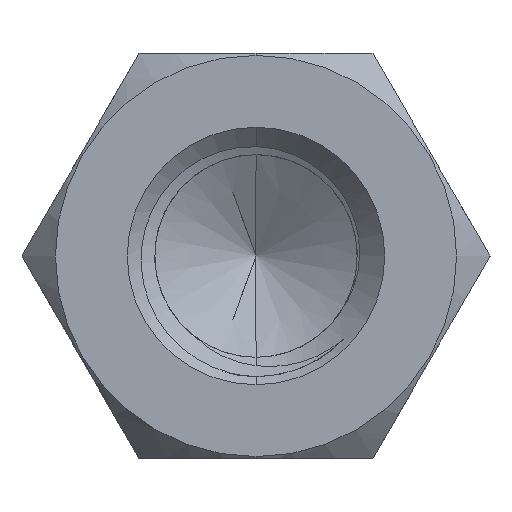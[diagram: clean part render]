
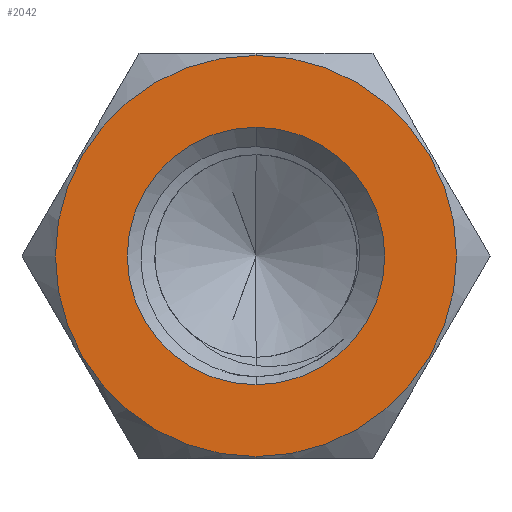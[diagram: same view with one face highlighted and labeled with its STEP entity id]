
A CAD part, front view. The second image highlights one B-rep face of the part: STEP entity #2042.
In plain terms, the highlighted planar face has unit normal (0, -1, 0).
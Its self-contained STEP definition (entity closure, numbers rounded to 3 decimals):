
#17 = EDGE_CURVE ( 'NONE', #890, #2225, #2413, .T. ) ;
#66 = CARTESIAN_POINT ( 'NONE',  ( 0., 0., -8.415 ) ) ;
#146 = DIRECTION ( 'NONE',  ( 0., -1., 0. ) ) ;
#182 = ORIENTED_EDGE ( 'NONE', *, *, #1359, .T. ) ;
#274 = DIRECTION ( 'NONE',  ( 0., 1., 0. ) ) ;
#398 = CARTESIAN_POINT ( 'NONE',  ( 0., 0., 5.4 ) ) ;
#508 = CARTESIAN_POINT ( 'NONE',  ( 0., 0., 0. ) ) ;
#525 = VERTEX_POINT ( 'NONE', #970 ) ;
#531 = DIRECTION ( 'NONE',  ( 0., 0., 1. ) ) ;
#562 = AXIS2_PLACEMENT_3D ( 'NONE', #2030, #274, #2001 ) ;
#720 = FACE_OUTER_BOUND ( 'NONE', #1693, .T. ) ;
#742 = AXIS2_PLACEMENT_3D ( 'NONE', #508, #2064, #2742 ) ;
#794 = EDGE_LOOP ( 'NONE', ( #1078, #1841 ) ) ;
#877 = AXIS2_PLACEMENT_3D ( 'NONE', #2098, #146, #1012 ) ;
#890 = VERTEX_POINT ( 'NONE', #2608 ) ;
#925 = DIRECTION ( 'NONE',  ( 0., 1., 0. ) ) ;
#970 = CARTESIAN_POINT ( 'NONE',  ( 0., 0., 8.415 ) ) ;
#1012 = DIRECTION ( 'NONE',  ( 0., 0., -1. ) ) ;
#1018 = CIRCLE ( 'NONE', #877, 8.415 ) ;
#1078 = ORIENTED_EDGE ( 'NONE', *, *, #17, .T. ) ;
#1359 = EDGE_CURVE ( 'NONE', #2773, #525, #1018, .T. ) ;
#1501 = DIRECTION ( 'NONE',  ( 0., -1., 0. ) ) ;
#1583 = CARTESIAN_POINT ( 'NONE',  ( 0., 0., 0. ) ) ;
#1592 = PLANE ( 'NONE',  #742 ) ;
#1693 = EDGE_LOOP ( 'NONE', ( #2495, #182 ) ) ;
#1801 = FACE_BOUND ( 'NONE', #794, .T. ) ;
#1841 = ORIENTED_EDGE ( 'NONE', *, *, #2621, .T. ) ;
#2001 = DIRECTION ( 'NONE',  ( 0., 0., 1. ) ) ;
#2030 = CARTESIAN_POINT ( 'NONE',  ( 0., 0., 0. ) ) ;
#2042 = ADVANCED_FACE ( 'NONE', ( #1801, #720 ), #1592, .F. ) ;
#2064 = DIRECTION ( 'NONE',  ( 0., 1., 0. ) ) ;
#2098 = CARTESIAN_POINT ( 'NONE',  ( 0., 0., 0. ) ) ;
#2127 = DIRECTION ( 'NONE',  ( 0., 0., -1. ) ) ;
#2225 = VERTEX_POINT ( 'NONE', #398 ) ;
#2265 = EDGE_CURVE ( 'NONE', #525, #2773, #2510, .T. ) ;
#2374 = AXIS2_PLACEMENT_3D ( 'NONE', #2571, #1501, #2127 ) ;
#2413 = CIRCLE ( 'NONE', #562, 5.4 ) ;
#2419 = CIRCLE ( 'NONE', #2551, 5.4 ) ;
#2495 = ORIENTED_EDGE ( 'NONE', *, *, #2265, .T. ) ;
#2510 = CIRCLE ( 'NONE', #2374, 8.415 ) ;
#2551 = AXIS2_PLACEMENT_3D ( 'NONE', #1583, #925, #531 ) ;
#2571 = CARTESIAN_POINT ( 'NONE',  ( 0., 0., 0. ) ) ;
#2608 = CARTESIAN_POINT ( 'NONE',  ( 0., 0., -5.4 ) ) ;
#2621 = EDGE_CURVE ( 'NONE', #2225, #890, #2419, .T. ) ;
#2742 = DIRECTION ( 'NONE',  ( 0., 0., 1. ) ) ;
#2773 = VERTEX_POINT ( 'NONE', #66 ) ;
